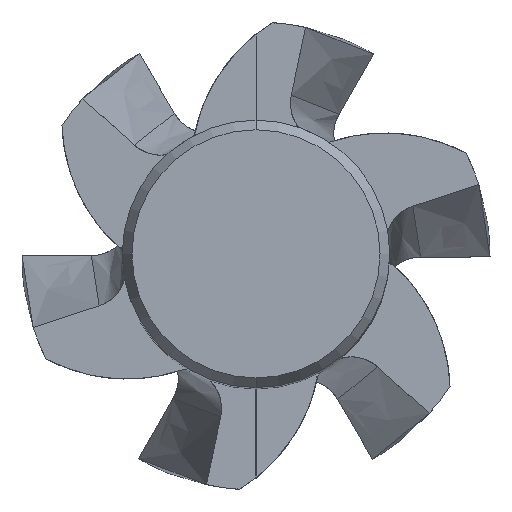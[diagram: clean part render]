
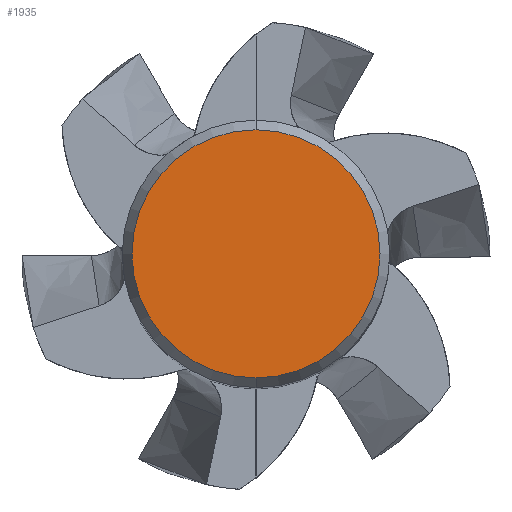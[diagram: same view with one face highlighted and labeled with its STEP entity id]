
A CAD part, top view. The second image highlights one B-rep face of the part: STEP entity #1935.
In plain terms, the highlighted planar face has unit normal (0, 0, 1).
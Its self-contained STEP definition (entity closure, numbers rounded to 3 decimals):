
#717=EDGE_CURVE('',#1703,#1937,#2068,.T.);
#1703=VERTEX_POINT('',#3147);
#1935=ADVANCED_FACE('',(#3395),#3396,.T.);
#1937=VERTEX_POINT('',#3398);
#2003=EDGE_CURVE('',#1937,#1703,#3471,.T.);
#2068=CIRCLE('',#3568,7.423);
#3147=CARTESIAN_POINT('',(0.,-7.423,0.0));
#3395=FACE_OUTER_BOUND('',#14578,.T.);
#3396=PLANE('',#14579);
#3398=CARTESIAN_POINT('',(0.0,7.423,0.0));
#3471=CIRCLE('',#15267,7.423);
#3568=AXIS2_PLACEMENT_3D('',#15622,#15623,#15624);
#14578=EDGE_LOOP('',(#16655,#16656));
#14579=AXIS2_PLACEMENT_3D('',#16657,#16658,#16659);
#15267=AXIS2_PLACEMENT_3D('',#16715,#16716,#16717);
#15622=CARTESIAN_POINT('',(0.0,0.0,0.0));
#15623=DIRECTION('',(0.0,0.0,-1.0));
#15624=DIRECTION('',(0.0,1.0,0.0));
#16655=ORIENTED_EDGE('',*,*,#2003,.F.);
#16656=ORIENTED_EDGE('',*,*,#717,.F.);
#16657=CARTESIAN_POINT('',(0.0,3.711,0.0));
#16658=DIRECTION('',(-0.0,0.0,1.0));
#16659=DIRECTION('',(0.0,-1.0,0.0));
#16715=CARTESIAN_POINT('',(0.0,0.0,0.0));
#16716=DIRECTION('',(0.0,0.0,-1.0));
#16717=DIRECTION('',(0.0,1.0,0.0));
